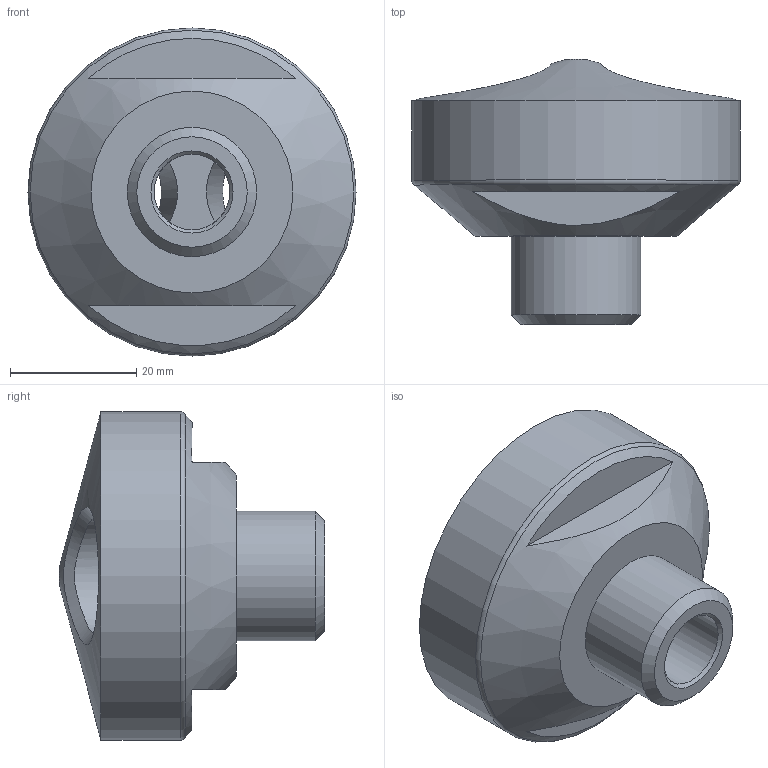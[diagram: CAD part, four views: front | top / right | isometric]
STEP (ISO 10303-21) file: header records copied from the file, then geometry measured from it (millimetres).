
FILE_DESCRIPTION(/* description */ (''),/* implementation_level */ '2;1');
FILE_NAME(/* name */ '60105000021.stp',/* time_stamp */ '2022-06-14T14:51:28+08:00',/* author */ (''),/* organization */ (''),/* preprocessor_version */ 'ST-DEVELOPER v11',/* originating_system */ 'SIEMENS PLM Software NX 7.5',/* authorisation */ '');
FILE_SCHEMA (('CONFIG_CONTROL_DESIGN'));
Length unit declared in the file: millimetre
Products named in the file (1): Admi5148g0wz
Bounding box: 52 x 42 x 52 mm (x, y, z)
Volume: 36365 mm3; surface area: 10167.2 mm2
Topology: 1 solids, 1 shells, 22 faces, 57 edges, 36 vertices
Faces by surface type: plane 8, cone 6, cylinder 5, bspline 2, torus 1
Full cylindrical faces by diameter (mm): 12 x1, 18.6 x2, 20.5 x1, 52 x1
Entity records: 1617 total; most frequent: CARTESIAN_POINT 1122, DIRECTION 80, ORIENTED_EDGE 64, EDGE_LOOP 40, AXIS2_PLACEMENT_3D 39, FACE_BOUND 36, EDGE_CURVE 32, VERTEX_POINT 28
